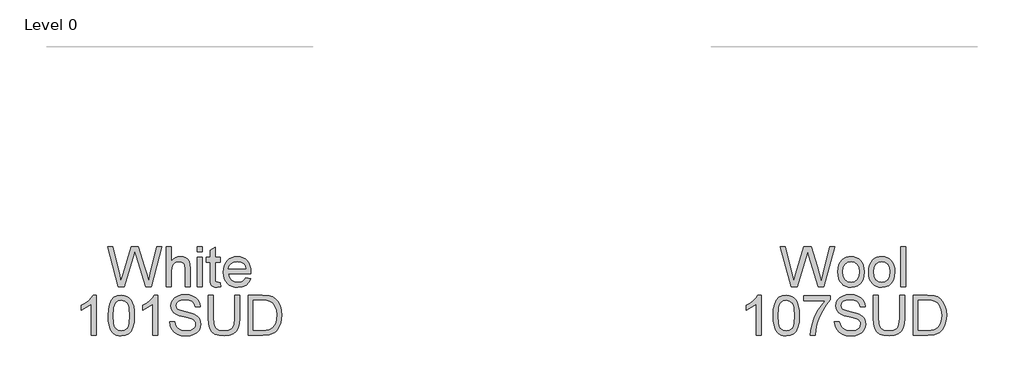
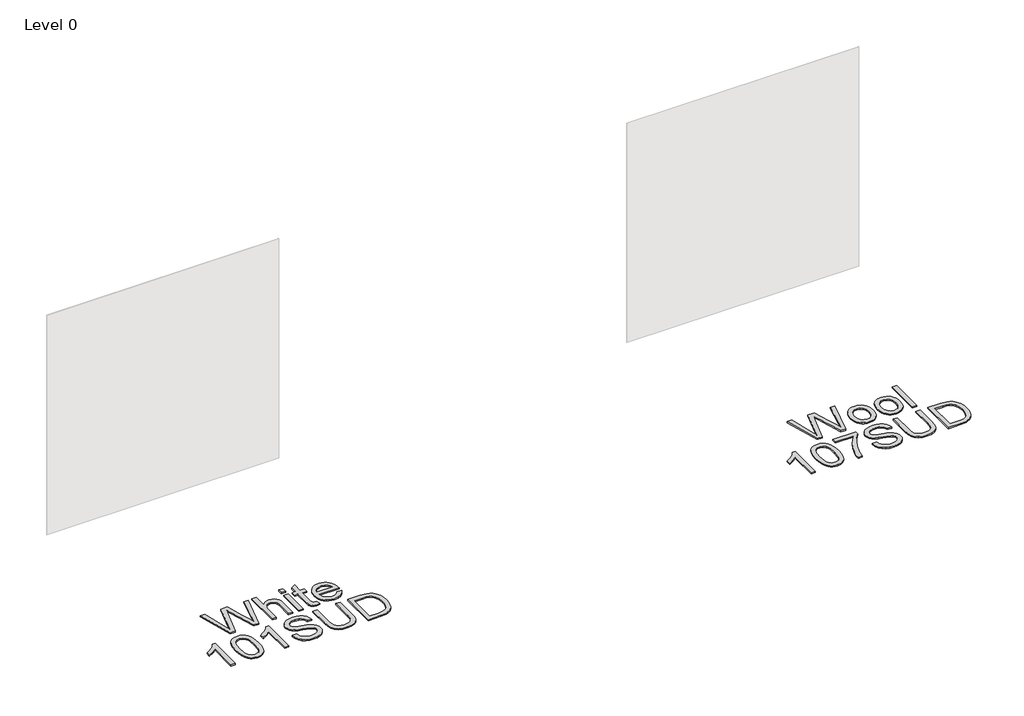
# One storey, part 11 of 37: 2 proxies.
"""IFC4 building model written with IfcOpenShell, lengths in millimetres."""

from ifc_helpers import new_model, si_unit, origin, origin_with_axes, place, context, project, spatial, polyline, outline, extrude, element, save

model = new_model("IFC4")

# Units and contexts
model_context = context("Model", 3, world=origin())
ifc_project = project(units=[si_unit("LENGTHUNIT", "METRE", prefix="MILLI")], contexts=[model_context])

# Site, building, storey
site = spatial("IfcSite", under=ifc_project)
building = spatial("IfcBuilding", under=site)
storey = spatial("IfcBuildingStorey", under=building, Name="Level 0", Elevation=0.0)

# Proxies
placement = place(None, origin())
element("IfcBuildingElementProxy", 1, Name="300mm Arial", ObjectType="300mm Arial", at=placement, inside=storey, context=model_context, shape_type="SweptSolid", body=[
    extrude(outline(polyline([(-9909.9955155, -7002.860494), (-9992.1803532, -6701.4915635), (-9953.3320145, -6701.4915635), (-9905.6545079, -6899.5592297), (-9890.9392281, -6960.7012173), (-9875.1938787, -6906.622564), (-9815.4498427, -6701.4915635), (-9759.4582031, -6701.4915635), (-9716.0481276, -6850.189466), (-9697.4516928, -6905.3717653), (-9683.7480885, -6960.7012173), (-9669.474267, -6901.3250633), (-9621.3553021, -6701.4915635), (-9582.5069634, -6701.4915635), (-9664.7653775, -7002.860494), (-9705.0116678, -7002.860494), (-9777.2636916, -6770.359073), (-9787.3436583, -6737.9118811), (-9798.6744237, -6776.9809489), (-9864.5253009, -7002.860494), (-9909.9955155, -7002.860494)])), origin_with_axes(), (0.0, 0.0, 1.0), 10.0),
    extrude(outline(polyline([(-9549.5447366, -7002.860494), (-9549.5447366, -6701.4915635), (-9511.8736203, -6701.4915635), (-9511.8736203, -6812.2976205), (-9498.0366588, -6796.7821973), (-9482.498243, -6785.6997522), (-9465.258373, -6779.0502852), (-9446.3170488, -6776.8337961), (-9423.5635474, -6779.2526203), (-9404.0106193, -6786.5090926), (-9388.6147578, -6798.0329961), (-9378.3324561, -6813.2541137), (-9372.5383146, -6834.1682051), (-9370.6069342, -6862.7710302), (-9370.6069342, -7002.860494), (-9408.2780505, -7002.860494), (-9408.2780505, -6866.6705794), (-9411.2762887, -6843.0893435), (-9420.2710035, -6826.9393239), (-9434.7655541, -6817.6135153), (-9454.2632999, -6814.5049125), (-9470.1833932, -6816.6018398), (-9485.1285993, -6822.8926219), (-9497.5078284, -6832.7702535), (-9505.729991, -6845.6277292), (-9510.337713, -6862.7158479), (-9511.8736203, -6885.2854083), (-9511.8736203, -7002.860494), (-9549.5447366, -7002.860494)])), origin_with_axes(), (0.0, 0.0, 1.0), 10.0),
    extrude(outline(polyline([(-9318.8091492, -6739.1626798), (-9318.8091492, -6701.4915635), (-9281.1380329, -6701.4915635), (-9281.1380329, -6739.1626798), (-9318.8091492, -6739.1626798)])), origin_with_axes(), (0.0, 0.0, 1.0), 10.0),
    extrude(outline(polyline([(-9318.8091492, -7002.860494), (-9318.8091492, -6781.5426857), (-9281.1380329, -6781.5426857), (-9281.1380329, -7002.860494), (-9318.8091492, -7002.860494)])), origin_with_axes(), (0.0, 0.0, 1.0), 10.0),
    extrude(outline(polyline([(-9144.5802363, -6971.4433716), (-9139.8713468, -7003.96414), (-9168.0511076, -7007.5693835), (-9186.1325077, -7006.005885), (-9199.6153828, -7001.3153896), (-9209.1435265, -6994.0865084), (-9215.3607322, -6984.9078526), (-9218.7820347, -6969.1441091), (-9219.9224689, -6942.1599648), (-9219.9224689, -6819.213802), (-9248.1758062, -6819.213802), (-9248.1758062, -6781.5426857), (-9219.9224689, -6781.5426857), (-9219.9224689, -6727.758338), (-9182.2513526, -6705.6118419), (-9182.2513526, -6781.5426857), (-9144.5802363, -6781.5426857), (-9144.5802363, -6819.213802), (-9182.2513526, -6819.213802), (-9182.2513526, -6941.0563188), (-9180.2647899, -6960.4804881), (-9173.8268549, -6967.3598814), (-9160.9877733, -6969.8982672), (-9144.5802363, -6971.4433716)])), origin_with_axes(), (0.0, 0.0, 1.0), 10.0),
    extrude(outline(polyline([(-8951.9572236, -6936.9360404), (-8915.0218713, -6941.64493), (-8928.3300025, -6969.4752029), (-8949.5659907, -6990.2789297), (-8978.2515893, -7003.2467701), (-9013.9085516, -7007.5693835), (-9037.2828539, -7005.7046817), (-9058.1095734, -7000.1105761), (-9076.38871, -6990.7870668), (-9092.1202638, -6977.7341537), (-9104.7708059, -6961.3151204), (-9113.8069074, -6941.8932503), (-9119.2285683, -6919.4685435), (-9121.0357886, -6894.0409998), (-9119.2101742, -6867.7512327), (-9113.733331, -6844.5792656), (-9104.605259, -6824.5250983), (-9091.8259582, -6807.5887309), (-9076.1357911, -6794.133447), (-9058.2751203, -6784.5225298), (-9038.2439456, -6778.7559796), (-9016.0422672, -6776.8337961), (-8994.5556594, -6778.751381), (-8975.1245923, -6784.5041357), (-8957.7490658, -6794.0920602), (-8942.42908, -6807.5151545), (-8929.9233914, -6824.4147337), (-8920.9907567, -6844.4321128), (-8915.6311759, -6867.5672917), (-8913.8446489, -6893.8202706), (-8914.0653781, -6903.9738137), (-9083.3646723, -6903.9738137), (-9076.843964, -6932.1719686), (-9061.6964228, -6952.902119), (-9039.8350352, -6965.6492302), (-9013.1727876, -6969.8982672), (-8993.1232189, -6967.9300985), (-8976.2374353, -6962.0255925), (-8962.5154369, -6951.8168672), (-8951.9572236, -6936.9360404)]), holes=[polyline([(-9083.3646723, -6866.3026974), (-8951.5157653, -6866.3026974), (-8956.6109309, -6846.4002814), (-8966.5989271, -6832.1632482), (-8988.5614822, -6818.9194964), (-9016.18942, -6814.5049125), (-9041.5824747, -6818.0273826), (-9062.5793396, -6828.5947929), (-9077.1750578, -6845.0667092), (-9083.3646723, -6866.3026974)])]), origin_with_axes(), (0.0, 0.0, 1.0), 10.0),
    extrude(outline(polyline([(-10076.9403649, -7368.7849475), (-10114.6114812, -7368.7849475), (-10114.6114812, -7133.9290818), (-10150.2960347, -7159.3497277), (-10189.9537138, -7178.3692268), (-10189.9537138, -7142.7582497), (-10160.3668044, -7126.6634124), (-10134.7346263, -7107.5151545), (-10114.5287078, -7087.1528861), (-10101.2205766, -7067.4160171), (-10076.9403649, -7067.4160171), (-10076.9403649, -7368.7849475)])), origin_with_axes(), (0.0, 0.0, 1.0), 10.0),
    extrude(outline(polyline([(-9987.4714637, -7220.5285035), (-9984.7031517, -7172.2899768), (-9976.3982156, -7133.8187172), (-9962.639429, -7104.5261133), (-9943.5095652, -7083.8235541), (-9918.8706686, -7071.5179013), (-9888.5847834, -7067.4160171), (-9865.3714295, -7069.8440382), (-9844.5860967, -7077.1281017), (-9827.2036725, -7088.983099), (-9814.1990439, -7105.1239216), (-9804.3765947, -7125.4126136), (-9796.5407082, -7149.7112194), (-9791.4087543, -7180.5673217), (-9789.6981031, -7220.5285035), (-9792.4388239, -7268.4911186), (-9800.6609865, -7306.8704077), (-9814.3369997, -7336.1906027), (-9833.4392723, -7356.9759355), (-9858.1333512, -7369.3643617), (-9888.5847834, -7373.4938371), (-9909.3333279, -7371.7004123), (-9927.7274277, -7366.3201381), (-9943.7670826, -7357.3530145), (-9957.4522929, -7344.7990414), (-9970.5856801, -7322.1053209), (-9979.966671, -7293.828991), (-9985.5952655, -7259.9700519), (-9987.4714637, -7220.5285035)]), holes=[polyline([(-9949.8003474, -7220.4549271), (-9945.3857634, -7279.7115194), (-9939.8675335, -7299.9795181), (-9932.1420116, -7314.0073184), (-9912.4235367, -7330.3688702), (-9888.5847834, -7335.8227207), (-9864.7460301, -7330.3504761), (-9845.0275551, -7313.933742), (-9837.3020332, -7299.8829491), (-9831.7838033, -7279.6195489), (-9827.3692194, -7220.4549271), (-9831.6366505, -7162.5319069), (-9836.9709394, -7142.3305869), (-9844.4389439, -7127.9693935), (-9864.1206307, -7110.8076984), (-9889.0262418, -7105.0871334), (-9912.6074777, -7110.1271167), (-9931.5534004, -7125.2470667), (-9939.5364397, -7140.8820515), (-9945.2386106, -7161.9616898), (-9949.8003474, -7220.4549271)])]), origin_with_axes(), (0.0, 0.0, 1.0), 10.0),
    extrude(outline(polyline([(-9615.4691901, -7368.7849475), (-9653.1403065, -7368.7849475), (-9653.1403065, -7133.9290818), (-9688.82486, -7159.3497277), (-9728.4825391, -7178.3692268), (-9728.4825391, -7142.7582497), (-9698.8956296, -7126.6634124), (-9673.2634516, -7107.5151545), (-9653.057533, -7087.1528861), (-9639.7494018, -7067.4160171), (-9615.4691901, -7067.4160171), (-9615.4691901, -7368.7849475)])), origin_with_axes(), (0.0, 0.0, 1.0), 10.0),
    extrude(outline(polyline([(-9526.0002889, -7265.1893777), (-9488.3291726, -7265.1893777), (-9484.0065592, -7286.0942721), (-9476.1890668, -7302.8972822), (-9463.9937786, -7316.2330045), (-9446.537778, -7326.7360355), (-9425.2006222, -7333.5510494), (-9401.361869, -7335.8227207), (-9380.3742011, -7334.1028724), (-9361.9984955, -7328.9433274), (-9347.1084717, -7320.7763471), (-9336.5778496, -7310.0341929), (-9330.3146586, -7297.700949), (-9328.2269283, -7284.7606998), (-9329.7904268, -7272.1515444), (-9334.4809222, -7261.2530403), (-9344.0090659, -7251.9548229), (-9360.0855091, -7244.1465276), (-9414.9367146, -7229.7623415), (-9450.9431649, -7220.2433949), (-9473.9817748, -7211.1843008), (-9492.7345595, -7198.510766), (-9506.0242966, -7183.1516928), (-9513.9429565, -7165.4381747), (-9516.5825098, -7145.7013056), (-9513.3175571, -7123.637583), (-9503.522699, -7103.0637824), (-9487.4554529, -7085.6261758), (-9465.3733361, -7072.9710352), (-9438.8674384, -7065.2731044), (-9409.5288492, -7062.7071275), (-9377.7438449, -7065.3926661), (-9349.931966, -7073.4492818), (-9327.0864941, -7086.7114277), (-9310.2007105, -7105.013557), (-9299.5137386, -7127.2152354), (-9295.2647015, -7152.1760288), (-9332.9358179, -7152.1760288), (-9339.8519994, -7129.6984389), (-9354.2729736, -7113.4748429), (-9376.8057458, -7103.6523936), (-9408.0573213, -7100.3782438), (-9440.0446607, -7103.6156054), (-9461.9888218, -7113.3276901), (-9474.6807506, -7127.6199056), (-9478.9113935, -7144.5976597), (-9475.9131553, -7159.0738162), (-9466.9184405, -7170.7172813), (-9445.6548612, -7181.1283418), (-9405.4085709, -7191.7601314), (-9363.8746936, -7201.8584922), (-9338.7483534, -7210.669266), (-9317.2732419, -7224.3360821), (-9302.2912477, -7241.2034716), (-9293.4896709, -7261.0874934), (-9290.555812, -7283.8042066), (-9293.9311293, -7307.0267576), (-9304.0570812, -7328.869751), (-9320.5198005, -7347.668521), (-9342.9054199, -7361.7584014), (-9369.8251849, -7370.5599781), (-9399.890341, -7373.4938371), (-9436.7981021, -7370.3300519), (-9467.1759579, -7360.8386964), (-9491.3733961, -7344.9829824), (-9509.7399047, -7322.7261217), (-9521.5305227, -7295.6132187), (-9526.0002889, -7265.1893777)])), origin_with_axes(), (0.0, 0.0, 1.0), 10.0),
    extrude(outline(polyline([(-9036.2757769, -7067.4160171), (-8998.6046606, -7067.4160171), (-8998.6046606, -7241.277048), (-9001.1614405, -7281.9923878), (-9008.8317801, -7313.3451308), (-9023.1607838, -7337.533372), (-9045.693556, -7356.7552063), (-9076.485279, -7369.3091794), (-9115.5911351, -7373.4938371), (-9153.8416655, -7369.8518053), (-9184.4218564, -7358.92571), (-9207.3409047, -7341.0926303), (-9222.6080075, -7316.7296452), (-9231.188855, -7284.052527), (-9234.0491375, -7241.277048), (-9234.0491375, -7067.4160171), (-9196.3780212, -7067.4160171), (-9196.3780212, -7239.9526728), (-9194.5202172, -7273.8070134), (-9188.9468049, -7297.3790523), (-9178.8484442, -7313.7038158), (-9163.4157945, -7325.8163305), (-9143.2926493, -7333.3211232), (-9119.1228023, -7335.8227207), (-9080.8078925, -7330.8747079), (-9066.4650932, -7324.6896919), (-9055.3320643, -7316.0306694), (-9046.9949386, -7303.8537754), (-9041.0398488, -7287.1151446), (-9036.2757769, -7239.9526728), (-9036.2757769, -7067.4160171)])), origin_with_axes(), (0.0, 0.0, 1.0), 10.0),
    extrude(outline(polyline([(-8932.6802071, -7368.7849475), (-8932.6802071, -7067.4160171), (-8828.7167553, -7067.4160171), (-8774.9324076, -7071.7570246), (-8750.9097133, -7080.12634), (-8730.6394153, -7093.3149095), (-8709.7989003, -7116.270746), (-8694.9548618, -7144.8183889), (-8686.0705116, -7178.406015), (-8683.1090616, -7216.4818015), (-8685.1140184, -7248.8278259), (-8691.1288891, -7277.2926953), (-8700.2891507, -7301.5269217), (-8711.7302808, -7321.1810173), (-8724.9004562, -7336.6964405), (-8739.247854, -7348.5146496), (-8755.7197704, -7357.2794381), (-8775.2635014, -7363.6345996), (-8823.7135601, -7368.7849475), (-8932.6802071, -7368.7849475)]), holes=[polyline([(-8895.0090908, -7331.1138312), (-8828.3488733, -7331.1138312), (-8800.7761177, -7329.7526678), (-8779.8620263, -7325.6691777), (-8764.0798887, -7319.1024841), (-8751.9029947, -7310.2917103), (-8738.8155927, -7293.9853408), (-8728.9839464, -7272.8781114), (-8722.83112, -7246.8780514), (-8720.7801779, -7215.8931903), (-8724.7992887, -7174.8375597), (-8736.8566211, -7144.5240833), (-8754.6713067, -7123.7019623), (-8775.9624772, -7111.1203981), (-8797.6307267, -7106.5954496), (-8829.3789429, -7105.0871334), (-8895.0090908, -7105.0871334), (-8895.0090908, -7331.1138312)])]), origin_with_axes(), (0.0, 0.0, 1.0), 10.0),
])
element("IfcBuildingElementProxy", 2, Name="300mm Arial", ObjectType="300mm Arial", at=placement, inside=storey, context=model_context, shape_type="SweptSolid", body=[
    extrude(outline(polyline([(-4851.1343963, -7002.860494), (-4933.319234, -6701.4915635), (-4894.4708953, -6701.4915635), (-4846.7933887, -6899.5592297), (-4832.0781089, -6960.7012173), (-4816.3327595, -6906.622564), (-4756.5887235, -6701.4915635), (-4700.5970838, -6701.4915635), (-4657.1870084, -6850.189466), (-4638.5905735, -6905.3717653), (-4624.8869692, -6960.7012173), (-4610.6131478, -6901.3250633), (-4562.4941828, -6701.4915635), (-4523.6458442, -6701.4915635), (-4605.9042583, -7002.860494), (-4646.1505485, -7002.860494), (-4718.4025724, -6770.359073), (-4728.4825391, -6737.9118811), (-4739.8133045, -6776.9809489), (-4805.6641817, -7002.860494), (-4851.1343963, -7002.860494)])), origin_with_axes(), (0.0, 0.0, 1.0), 10.0),
    extrude(outline(polyline([(-4500.1013965, -6892.2015898), (-4498.0642499, -6863.5389839), (-4491.9528103, -6838.8403064), (-4481.7670775, -6818.1055575), (-4467.5070517, -6801.334737), (-4453.1504568, -6790.6155754), (-4437.3039399, -6782.9590314), (-4419.9675009, -6778.3651049), (-4401.1411398, -6776.8337961), (-4380.3581063, -6778.698498), (-4361.5662341, -6784.2926036), (-4344.7655233, -6793.6161129), (-4329.9559737, -6806.669026), (-4317.8687509, -6823.0098843), (-4309.2350203, -6842.1972296), (-4304.054782, -6864.2310619), (-4302.3280359, -6889.1113811), (-4305.3814564, -6927.1687735), (-4314.5417181, -6956.1394806), (-4329.5421064, -6977.8353213), (-4350.115907, -6994.0681143), (-4374.5524686, -7004.1940662), (-4401.1411398, -7007.5693835), (-4422.2276759, -7005.7115794), (-4441.194292, -7000.1381672), (-4458.0409881, -6990.8491468), (-4472.7677642, -6977.8445183), (-4484.7262283, -6961.3450108), (-4493.2679884, -6941.5713536), (-4498.3930444, -6918.5235466), (-4500.1013965, -6892.2015898)]), holes=[polyline([(-4462.4302802, -6892.1280134), (-4458.0708785, -6926.2214773), (-4444.9926736, -6950.5108861), (-4425.3109868, -6965.0514219), (-4401.1411398, -6969.8982672), (-4377.0816573, -6965.0238308), (-4357.4367587, -6950.4005215), (-4344.3585538, -6925.789216), (-4339.9991522, -6890.950791), (-4344.386145, -6857.8506085), (-4357.5471233, -6833.8922936), (-4377.219613, -6819.3517577), (-4401.1411398, -6814.5049125), (-4425.3109868, -6819.3333636), (-4444.9926736, -6833.8187172), (-4458.0708785, -6858.0529436), (-4462.4302802, -6892.1280134)])]), origin_with_axes(), (0.0, 0.0, 1.0), 10.0),
    extrude(outline(polyline([(-4269.3658091, -6892.2015898), (-4267.3286625, -6863.5389839), (-4261.2172229, -6838.8403064), (-4251.0314901, -6818.1055575), (-4236.7714643, -6801.334737), (-4222.4148694, -6790.6155754), (-4206.5683525, -6782.9590314), (-4189.2319135, -6778.3651049), (-4170.4055524, -6776.8337961), (-4149.6225189, -6778.698498), (-4130.8306468, -6784.2926036), (-4114.0299359, -6793.6161129), (-4099.2203863, -6806.669026), (-4087.1331635, -6823.0098843), (-4078.4994329, -6842.1972296), (-4073.3191946, -6864.2310619), (-4071.5924485, -6889.1113811), (-4074.645869, -6927.1687735), (-4083.8061307, -6956.1394806), (-4098.8065191, -6977.8353213), (-4119.3803197, -6994.0681143), (-4143.8168812, -7004.1940662), (-4170.4055524, -7007.5693835), (-4191.4920885, -7005.7115794), (-4210.4587046, -7000.1381672), (-4227.3054007, -6990.8491468), (-4242.0321768, -6977.8445183), (-4253.9906409, -6961.3450108), (-4262.532401, -6941.5713536), (-4267.6574571, -6918.5235466), (-4269.3658091, -6892.2015898)]), holes=[polyline([(-4231.6946928, -6892.1280134), (-4227.3352911, -6926.2214773), (-4214.2570862, -6950.5108861), (-4194.5753995, -6965.0514219), (-4170.4055524, -6969.8982672), (-4146.3460699, -6965.0238308), (-4126.7011714, -6950.4005215), (-4113.6229664, -6925.789216), (-4109.2635648, -6890.950791), (-4113.6505576, -6857.8506085), (-4126.811536, -6833.8922936), (-4146.4840256, -6819.3517577), (-4170.4055524, -6814.5049125), (-4194.5753995, -6819.3333636), (-4214.2570862, -6833.8187172), (-4227.3352911, -6858.0529436), (-4231.6946928, -6892.1280134)])]), origin_with_axes(), (0.0, 0.0, 1.0), 10.0),
    extrude(outline(polyline([(-4029.2124426, -7002.860494), (-4029.2124426, -6701.4915635), (-3991.5413263, -6701.4915635), (-3991.5413263, -7002.860494), (-4029.2124426, -7002.860494)])), origin_with_axes(), (0.0, 0.0, 1.0), 10.0),
    extrude(outline(polyline([(-5076.9403649, -7368.7849475), (-5114.6114812, -7368.7849475), (-5114.6114812, -7133.9290818), (-5150.2960347, -7159.3497277), (-5189.9537138, -7178.3692268), (-5189.9537138, -7142.7582497), (-5160.3668044, -7126.6634124), (-5134.7346263, -7107.5151545), (-5114.5287078, -7087.1528861), (-5101.2205766, -7067.4160171), (-5076.9403649, -7067.4160171), (-5076.9403649, -7368.7849475)])), origin_with_axes(), (0.0, 0.0, 1.0), 10.0),
    extrude(outline(polyline([(-4987.4714637, -7220.5285035), (-4984.7031517, -7172.2899768), (-4976.3982156, -7133.8187172), (-4962.639429, -7104.5261133), (-4943.5095652, -7083.8235541), (-4918.8706686, -7071.5179013), (-4888.5847834, -7067.4160171), (-4865.3714295, -7069.8440382), (-4844.5860967, -7077.1281017), (-4827.2036725, -7088.983099), (-4814.1990439, -7105.1239216), (-4804.3765947, -7125.4126136), (-4796.5407082, -7149.7112194), (-4791.4087543, -7180.5673217), (-4789.6981031, -7220.5285035), (-4792.4388239, -7268.4911186), (-4800.6609865, -7306.8704077), (-4814.3369997, -7336.1906027), (-4833.4392723, -7356.9759355), (-4858.1333512, -7369.3643617), (-4888.5847834, -7373.4938371), (-4909.3333279, -7371.7004123), (-4927.7274277, -7366.3201381), (-4943.7670826, -7357.3530145), (-4957.4522929, -7344.7990414), (-4970.5856801, -7322.1053209), (-4979.966671, -7293.828991), (-4985.5952655, -7259.9700519), (-4987.4714637, -7220.5285035)]), holes=[polyline([(-4949.8003474, -7220.4549271), (-4945.3857634, -7279.7115194), (-4939.8675335, -7299.9795181), (-4932.1420116, -7314.0073184), (-4912.4235367, -7330.3688702), (-4888.5847834, -7335.8227207), (-4864.7460301, -7330.3504761), (-4845.0275551, -7313.933742), (-4837.3020332, -7299.8829491), (-4831.7838033, -7279.6195489), (-4827.3692194, -7220.4549271), (-4831.6366505, -7162.5319069), (-4836.9709394, -7142.3305869), (-4844.4389439, -7127.9693935), (-4864.1206307, -7110.8076984), (-4889.0262418, -7105.0871334), (-4912.6074777, -7110.1271167), (-4931.5534004, -7125.2470667), (-4939.5364397, -7140.8820515), (-4945.2386106, -7161.9616898), (-4949.8003474, -7220.4549271)])]), origin_with_axes(), (0.0, 0.0, 1.0), 10.0),
    extrude(outline(polyline([(-4756.7358763, -7109.7960229), (-4756.7358763, -7072.1249066), (-4558.9625157, -7072.1249066), (-4558.9625157, -7102.5855358), (-4587.1514736, -7138.2608923), (-4615.06452, -7183.6299393), (-4639.6850225, -7234.5540045), (-4657.9963488, -7286.8944154), (-4666.9726695, -7326.0554538), (-4671.9758646, -7368.7849475), (-4709.6469809, -7368.7849475), (-4705.5726878, -7329.9550029), (-4694.6741837, -7283.8042066), (-4677.2457742, -7234.8850983), (-4653.5817648, -7187.7502177), (-4625.953827, -7145.1402856), (-4596.633632, -7109.7960229), (-4756.7358763, -7109.7960229)])), origin_with_axes(), (0.0, 0.0, 1.0), 10.0),
    extrude(outline(polyline([(-4526.0002889, -7265.1893777), (-4488.3291726, -7265.1893777), (-4484.0065592, -7286.0942721), (-4476.1890668, -7302.8972822), (-4463.9937786, -7316.2330045), (-4446.537778, -7326.7360355), (-4425.2006222, -7333.5510494), (-4401.361869, -7335.8227207), (-4380.3742011, -7334.1028724), (-4361.9984955, -7328.9433274), (-4347.1084717, -7320.7763471), (-4336.5778496, -7310.0341929), (-4330.3146586, -7297.700949), (-4328.2269283, -7284.7606998), (-4329.7904268, -7272.1515444), (-4334.4809222, -7261.2530403), (-4344.0090659, -7251.9548229), (-4360.0855091, -7244.1465276), (-4414.9367146, -7229.7623415), (-4450.9431649, -7220.2433949), (-4473.9817748, -7211.1843008), (-4492.7345595, -7198.510766), (-4506.0242966, -7183.1516928), (-4513.9429565, -7165.4381747), (-4516.5825098, -7145.7013056), (-4513.3175571, -7123.637583), (-4503.522699, -7103.0637824), (-4487.4554529, -7085.6261758), (-4465.3733361, -7072.9710352), (-4438.8674384, -7065.2731044), (-4409.5288492, -7062.7071275), (-4377.7438449, -7065.3926661), (-4349.931966, -7073.4492818), (-4327.0864941, -7086.7114277), (-4310.2007105, -7105.013557), (-4299.5137386, -7127.2152354), (-4295.2647015, -7152.1760288), (-4332.9358179, -7152.1760288), (-4339.8519994, -7129.6984389), (-4354.2729736, -7113.4748429), (-4376.8057458, -7103.6523936), (-4408.0573213, -7100.3782438), (-4440.0446607, -7103.6156054), (-4461.9888218, -7113.3276901), (-4474.6807506, -7127.6199056), (-4478.9113935, -7144.5976597), (-4475.9131553, -7159.0738162), (-4466.9184405, -7170.7172813), (-4445.6548612, -7181.1283418), (-4405.4085709, -7191.7601314), (-4363.8746936, -7201.8584922), (-4338.7483534, -7210.669266), (-4317.2732419, -7224.3360821), (-4302.2912477, -7241.2034716), (-4293.4896709, -7261.0874934), (-4290.555812, -7283.8042066), (-4293.9311293, -7307.0267576), (-4304.0570812, -7328.869751), (-4320.5198005, -7347.668521), (-4342.9054199, -7361.7584014), (-4369.8251849, -7370.5599781), (-4399.890341, -7373.4938371), (-4436.7981021, -7370.3300519), (-4467.1759579, -7360.8386964), (-4491.3733961, -7344.9829824), (-4509.7399047, -7322.7261217), (-4521.5305227, -7295.6132187), (-4526.0002889, -7265.1893777)])), origin_with_axes(), (0.0, 0.0, 1.0), 10.0),
    extrude(outline(polyline([(-4036.2757769, -7067.4160171), (-3998.6046606, -7067.4160171), (-3998.6046606, -7241.277048), (-4001.1614405, -7281.9923878), (-4008.8317801, -7313.3451308), (-4023.1607838, -7337.533372), (-4045.693556, -7356.7552063), (-4076.485279, -7369.3091794), (-4115.5911351, -7373.4938371), (-4153.8416655, -7369.8518053), (-4184.4218564, -7358.92571), (-4207.3409047, -7341.0926303), (-4222.6080075, -7316.7296452), (-4231.188855, -7284.052527), (-4234.0491375, -7241.277048), (-4234.0491375, -7067.4160171), (-4196.3780212, -7067.4160171), (-4196.3780212, -7239.9526728), (-4194.5202172, -7273.8070134), (-4188.9468049, -7297.3790523), (-4178.8484442, -7313.7038158), (-4163.4157945, -7325.8163305), (-4143.2926493, -7333.3211232), (-4119.1228023, -7335.8227207), (-4080.8078925, -7330.8747079), (-4066.4650932, -7324.6896919), (-4055.3320643, -7316.0306694), (-4046.9949386, -7303.8537754), (-4041.0398488, -7287.1151446), (-4036.2757769, -7239.9526728), (-4036.2757769, -7067.4160171)])), origin_with_axes(), (0.0, 0.0, 1.0), 10.0),
    extrude(outline(polyline([(-3932.6802071, -7368.7849475), (-3932.6802071, -7067.4160171), (-3828.7167553, -7067.4160171), (-3774.9324076, -7071.7570246), (-3750.9097133, -7080.12634), (-3730.6394153, -7093.3149095), (-3709.7989003, -7116.270746), (-3694.9548618, -7144.8183889), (-3686.0705116, -7178.406015), (-3683.1090616, -7216.4818015), (-3685.1140184, -7248.8278259), (-3691.1288891, -7277.2926953), (-3700.2891507, -7301.5269217), (-3711.7302808, -7321.1810173), (-3724.9004562, -7336.6964405), (-3739.247854, -7348.5146496), (-3755.7197704, -7357.2794381), (-3775.2635014, -7363.6345996), (-3823.7135601, -7368.7849475), (-3932.6802071, -7368.7849475)]), holes=[polyline([(-3895.0090908, -7331.1138312), (-3828.3488733, -7331.1138312), (-3800.7761177, -7329.7526678), (-3779.8620263, -7325.6691777), (-3764.0798887, -7319.1024841), (-3751.9029947, -7310.2917103), (-3738.8155927, -7293.9853408), (-3728.9839464, -7272.8781114), (-3722.83112, -7246.8780514), (-3720.7801779, -7215.8931903), (-3724.7992887, -7174.8375597), (-3736.8566211, -7144.5240833), (-3754.6713067, -7123.7019623), (-3775.9624772, -7111.1203981), (-3797.6307267, -7106.5954496), (-3829.3789429, -7105.0871334), (-3895.0090908, -7105.0871334), (-3895.0090908, -7331.1138312)])]), origin_with_axes(), (0.0, 0.0, 1.0), 10.0),
])

save(model, "model.ifc")
